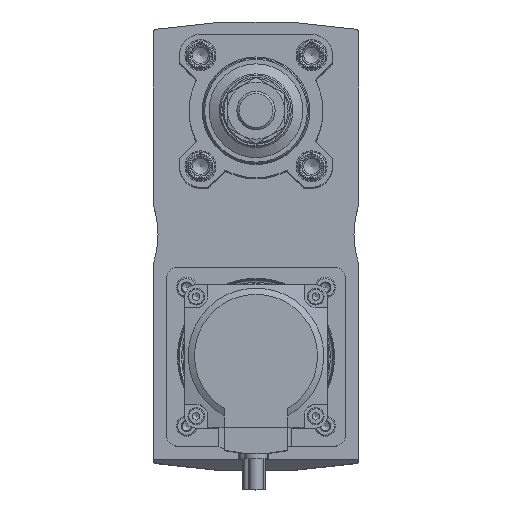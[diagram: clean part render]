
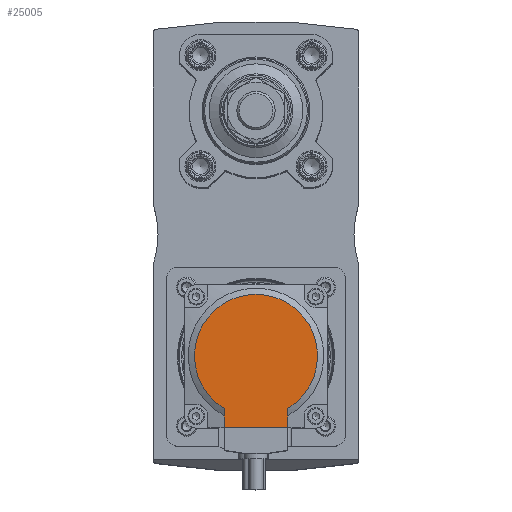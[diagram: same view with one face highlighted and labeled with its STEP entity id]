
A CAD part, top view. The second image highlights one B-rep face of the part: STEP entity #25005.
In plain terms, the highlighted planar face has unit normal (0, 0, 1).
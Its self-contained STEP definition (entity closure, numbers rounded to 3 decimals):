
#2723=LINE('',#44979,#4561);
#2750=LINE('',#45041,#4588);
#2751=LINE('',#45042,#4589);
#4561=VECTOR('',#35409,1000.);
#4588=VECTOR('',#35478,1000.);
#4589=VECTOR('',#35479,1000.);
#6761=FACE_OUTER_BOUND('',#8432,.T.);
#8432=EDGE_LOOP('',(#22593,#22594,#22595,#22596));
#9770=CIRCLE('',#28188,25.75);
#12026=VERTEX_POINT('',#44858);
#12027=VERTEX_POINT('',#44859);
#12058=VERTEX_POINT('',#44976);
#12059=VERTEX_POINT('',#44978);
#15542=EDGE_CURVE('',#12026,#12027,#9770,.T.);
#15581=EDGE_CURVE('',#12059,#12058,#2723,.T.);
#15612=EDGE_CURVE('',#12059,#12026,#2750,.T.);
#15613=EDGE_CURVE('',#12058,#12027,#2751,.T.);
#22593=ORIENTED_EDGE('',*,*,#15542,.F.);
#22594=ORIENTED_EDGE('',*,*,#15612,.F.);
#22595=ORIENTED_EDGE('',*,*,#15581,.T.);
#22596=ORIENTED_EDGE('',*,*,#15613,.T.);
#23585=PLANE('',#28235);
#25005=ADVANCED_FACE('',(#6761),#23585,.F.);
#28188=AXIS2_PLACEMENT_3D('',#44860,#35341,#35342);
#28235=AXIS2_PLACEMENT_3D('',#45040,#35476,#35477);
#35341=DIRECTION('center_axis',(0.,0.,-1.));
#35342=DIRECTION('ref_axis',(0.,1.,0.));
#35409=DIRECTION('',(1.,0.,0.));
#35476=DIRECTION('center_axis',(0.,0.,-1.));
#35477=DIRECTION('ref_axis',(-1.,0.,0.));
#35478=DIRECTION('',(0.,1.,0.));
#35479=DIRECTION('',(0.,1.,0.));
#44858=CARTESIAN_POINT('',(-13.25,-22.079,143.5));
#44859=CARTESIAN_POINT('',(13.25,-22.079,143.5));
#44860=CARTESIAN_POINT('Origin',(0.,0.,143.5));
#44976=CARTESIAN_POINT('',(13.25,-30.,143.5));
#44978=CARTESIAN_POINT('',(-13.25,-30.,143.5));
#44979=CARTESIAN_POINT('',(0.,-30.,143.5));
#45040=CARTESIAN_POINT('Origin',(30.,-30.,143.5));
#45041=CARTESIAN_POINT('',(-13.25,-47.694,143.5));
#45042=CARTESIAN_POINT('',(13.25,-47.694,143.5));
